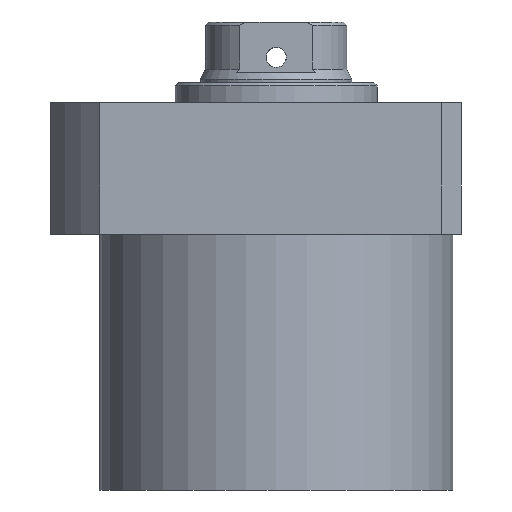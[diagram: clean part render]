
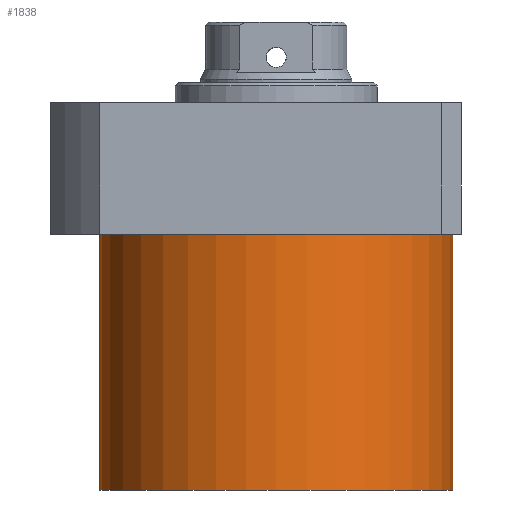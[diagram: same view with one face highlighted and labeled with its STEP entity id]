
A CAD part, front view. The second image highlights one B-rep face of the part: STEP entity #1838.
In plain terms, the highlighted cylindrical face has radius 52.5 mm (diameter 105 mm), a partial arc.
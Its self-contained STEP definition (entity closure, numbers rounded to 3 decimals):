
#31 = VERTEX_POINT ( 'NONE', #1047 ) ;
#80 = EDGE_CURVE ( 'NONE', #1593, #31, #508, .T. ) ;
#97 = DIRECTION ( 'NONE',  ( 1., 0., 0. ) ) ;
#104 = DIRECTION ( 'NONE',  ( 0., 0., -1. ) ) ;
#158 = CARTESIAN_POINT ( 'NONE',  ( 52.5, 0., -95.5 ) ) ;
#204 = CYLINDRICAL_SURFACE ( 'NONE', #2075, 52.5 ) ;
#251 = CARTESIAN_POINT ( 'NONE',  ( 0., 0., -19.5 ) ) ;
#280 = LINE ( 'NONE', #1371, #1382 ) ;
#339 = CARTESIAN_POINT ( 'NONE',  ( 0., 0., -95.5 ) ) ;
#413 = ORIENTED_EDGE ( 'NONE', *, *, #990, .F. ) ;
#437 = VERTEX_POINT ( 'NONE', #1362 ) ;
#444 = VERTEX_POINT ( 'NONE', #1189 ) ;
#498 = ORIENTED_EDGE ( 'NONE', *, *, #80, .T. ) ;
#508 = CIRCLE ( 'NONE', #1708, 52.5 ) ;
#514 = DIRECTION ( 'NONE',  ( 0., 0., 1. ) ) ;
#521 = ORIENTED_EDGE ( 'NONE', *, *, #845, .F. ) ;
#567 = DIRECTION ( 'NONE',  ( -1., 0., 0. ) ) ;
#607 = CARTESIAN_POINT ( 'NONE',  ( 52.5, 0., -19.5 ) ) ;
#696 = ORIENTED_EDGE ( 'NONE', *, *, #1587, .T. ) ;
#845 = EDGE_CURVE ( 'NONE', #444, #31, #280, .T. ) ;
#896 = CARTESIAN_POINT ( 'NONE',  ( 0., 0., -95.5 ) ) ;
#907 = AXIS2_PLACEMENT_3D ( 'NONE', #896, #104, #567 ) ;
#990 = EDGE_CURVE ( 'NONE', #437, #444, #1989, .T. ) ;
#1040 = LINE ( 'NONE', #158, #1294 ) ;
#1047 = CARTESIAN_POINT ( 'NONE',  ( -52.5, 0., -19.5 ) ) ;
#1189 = CARTESIAN_POINT ( 'NONE',  ( -52.5, 0., -95.5 ) ) ;
#1294 = VECTOR ( 'NONE', #1631, 1000. ) ;
#1362 = CARTESIAN_POINT ( 'NONE',  ( 52.5, 0., -95.5 ) ) ;
#1371 = CARTESIAN_POINT ( 'NONE',  ( -52.5, 0., -95.5 ) ) ;
#1382 = VECTOR ( 'NONE', #1685, 1000. ) ;
#1587 = EDGE_CURVE ( 'NONE', #437, #1593, #1040, .T. ) ;
#1593 = VERTEX_POINT ( 'NONE', #607 ) ;
#1621 = EDGE_LOOP ( 'NONE', ( #521, #413, #696, #498 ) ) ;
#1631 = DIRECTION ( 'NONE',  ( 0., 0., 1. ) ) ;
#1685 = DIRECTION ( 'NONE',  ( 0., 0., 1. ) ) ;
#1698 = DIRECTION ( 'NONE',  ( 1., 0., 0. ) ) ;
#1708 = AXIS2_PLACEMENT_3D ( 'NONE', #251, #1908, #97 ) ;
#1838 = ADVANCED_FACE ( 'NONE', ( #2015 ), #204, .T. ) ;
#1908 = DIRECTION ( 'NONE',  ( 0., 0., -1. ) ) ;
#1989 = CIRCLE ( 'NONE', #907, 52.5 ) ;
#2015 = FACE_OUTER_BOUND ( 'NONE', #1621, .T. ) ;
#2075 = AXIS2_PLACEMENT_3D ( 'NONE', #339, #514, #1698 ) ;
